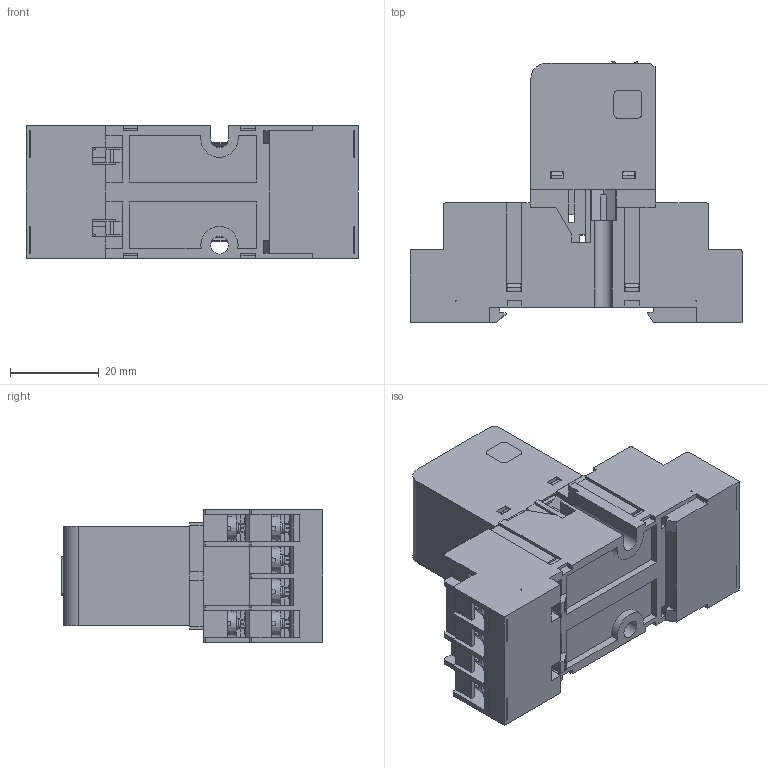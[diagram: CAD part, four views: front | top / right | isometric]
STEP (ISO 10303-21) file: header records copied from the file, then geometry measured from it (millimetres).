
FILE_DESCRIPTION(('STEP AP214'), '1');
FILE_NAME('Ðåëå ìîäóëüíîå ÐÏ30Õ-004 (áåç ìîäóëÿ) (íà ïîêàç)', '', ('UNSPECIFIED'), ('UNSPECIFIED'), 'ASCON STEP Converter 1.6', 'ASCON Math Kernel', '');
FILE_SCHEMA(('AUTOMOTIVE_DESIGN { 1 0 10303 214 3 1 1}'));
Length unit declared in the file: millimetre
Bounding box: 74.9 x 59 x 30 mm (x, y, z)
Volume: 20415.8 mm3; surface area: 36623.8 mm2
Topology: 19 solids, 19 shells, 3941 faces, 11071 edges, 7096 vertices
Faces by surface type: plane 2872, cylinder 634, torus 196, bspline 140, cone 99
Full cylindrical faces by diameter (mm): 0.6 x2, 2.3 x14, 3 x29, 3.54 x14, 4 x1, 4.5 x14
Entity records: 182214 total; most frequent: CARTESIAN_POINT 52382, ORIENTED_EDGE 21852, DIRECTION 18136, EDGE_CURVE 10926, LINE 7580, VECTOR 7580, VERTEX_POINT 7098, AXIS2_PLACEMENT_3D 5278
